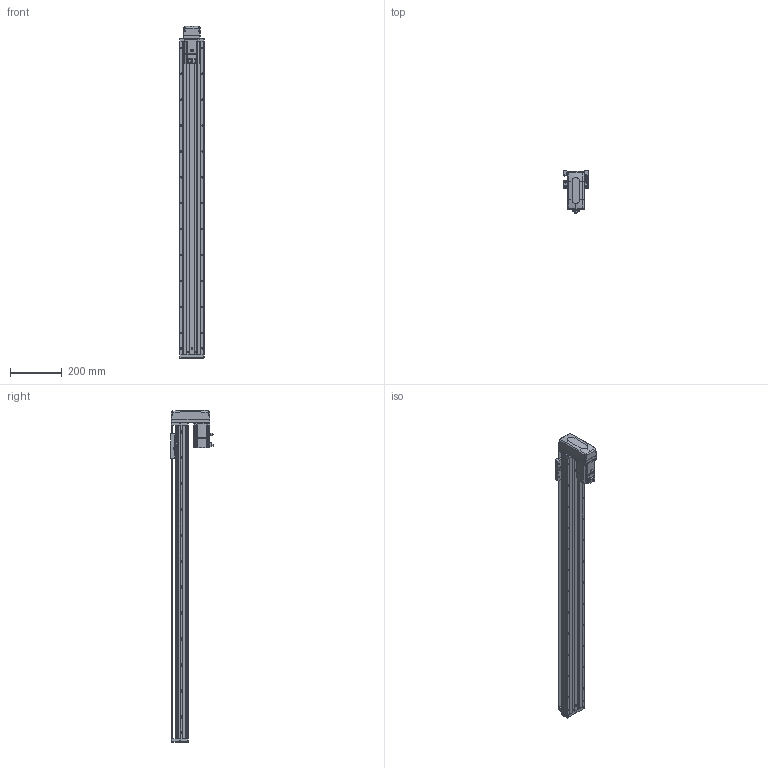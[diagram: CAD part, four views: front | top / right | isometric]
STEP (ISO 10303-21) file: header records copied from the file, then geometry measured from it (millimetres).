
FILE_DESCRIPTION (( 'STEP AP203' ), '1' );
FILE_NAME ('KTHA100-1050-BM-M20-C4L.step', '2022-04-26T01:51:53', ( '微软用户' ), ( '微软中国' ), 'SwSTEP 2.0', 'SolidWorks 2020', '' );
FILE_SCHEMA (( 'CONFIG_CONTROL_DESIGN' ));
Length unit declared in the file: millimetre
Products named in the file (17): KTHA100-002; GBT77-2000 M3×3; CTHA86-033; KTHA100-004; GBT 70.1-M3℅6; KTHA100-1050-BM-M20-C4L; KTHA100-005; GBT70.1 M5℅16; GB¨uT 70.2-M3¡Á5_M3¡Á6; CTHA60-016; EE_SX911P_R; GBT 70.3-M3℅6; CTHA60-017; _X2_4E0983F1_X0_200W_1; KTHA100-001_1210; CTHA60-021; CTHA86-015-1_CTHA86-015-2
Assembly tree (57 placements, depth 2):
  KTHA100-1050-BM-M20-C4L
    KTHA100-001_1210
    KTHA100-002
    KTHA100-004
    KTHA100-005
    GB¨uT 70.2-M3¡Á5_M3¡Á6  x6
    EE_SX911P_R  x3
    CTHA60-017  x3
    CTHA60-021  x2
    GBT77-2000 M3×3  x6
    GBT 70.1-M3℅6  x10
    GBT70.1 M5℅16  x14
    CTHA60-016  x2
    GBT 70.3-M3℅6  x4
    _X2_4E0983F1_X0_200W_1
    CTHA86-015-1_CTHA86-015-2
    CTHA86-033
Bounding box: 98.82 x 163.2 x 1281 mm (x, y, z)
Volume: 5295284.3 mm3; surface area: 855681.9 mm2
Topology: 60 solids, 60 shells, 2537 faces, 6113 edges, 3796 vertices
Faces by surface type: plane 1304, cylinder 707, cone 319, torus 116, bspline 75, sphere 16
Entity records: 45178 total; most frequent: CARTESIAN_POINT 9008, DIRECTION 7042, ORIENTED_EDGE 6838, EDGE_CURVE 3419, AXIS2_PLACEMENT_3D 2438, VECTOR 2166, LINE 2166, VERTEX_POINT 2156
